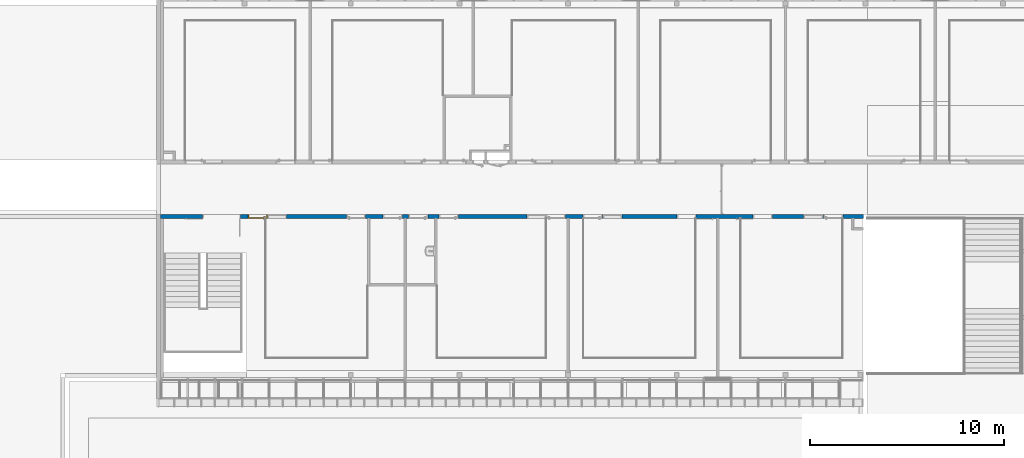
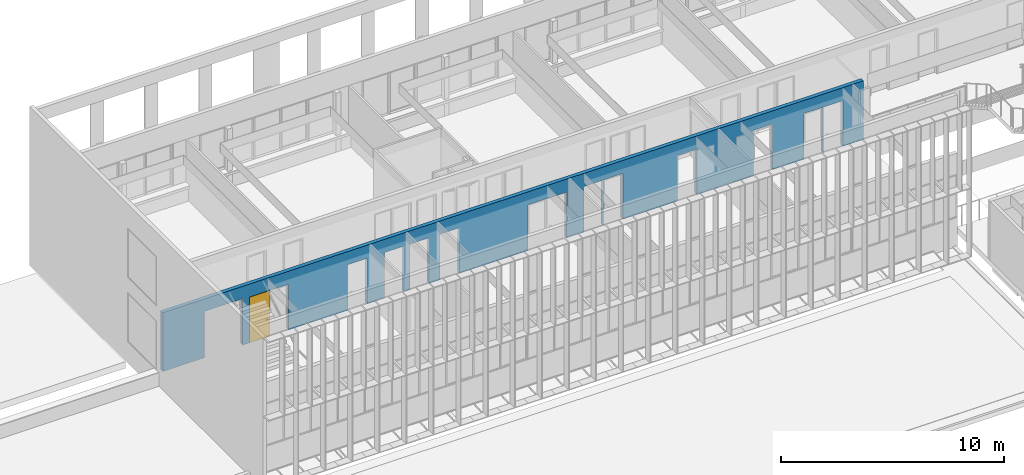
# One storey, part 39 of 106: 1 door, 1 wall, 15 openings.
"""IFC2X3 building model written with IfcOpenShell, lengths in centimetres."""

from ifc_helpers import new_model, entity, si_unit, converted_unit, derived_unit, direction, frame, frame_2d, origin, place, context, subcontext, project, spatial, polyline, rectangle, extrude, clip, bounded_halfspace, faceted_brep, source, transform, mapped, material, material_list, layer, layer_set, layer_usage, type_object, type_shapes, element, fill, save


model = new_model("IFC2X3")

# Units and contexts
model_context = context("Model", 3, precision=0.001, world=origin(), true_north=direction((6.12303176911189e-17, 1.0)))
body_context = subcontext(model_context, "Body", "Model", "MODEL_VIEW")
ifc_project = project(units=[si_unit("LENGTHUNIT", "METRE", prefix="CENTI"), si_unit("AREAUNIT", "SQUARE_METRE"), si_unit("VOLUMEUNIT", "CUBIC_METRE"), converted_unit("PLANEANGLEUNIT", "DEGREE", entity("IfcRatioMeasure", 0.0174532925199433), si_unit("PLANEANGLEUNIT", "RADIAN"), dimensions=[0, 0, 0, 0, 0, 0, 0]), si_unit("MASSUNIT", "GRAM", prefix="KILO"), derived_unit("MASSDENSITYUNIT", [(si_unit("MASSUNIT", "GRAM", prefix="KILO"), 1), (si_unit("LENGTHUNIT", "METRE"), -3)]), si_unit("TIMEUNIT", "SECOND"), si_unit("FREQUENCYUNIT", "HERTZ"), si_unit("THERMODYNAMICTEMPERATUREUNIT", "DEGREE_CELSIUS"), derived_unit("THERMALTRANSMITTANCEUNIT", [(si_unit("MASSUNIT", "GRAM", prefix="KILO"), 1), (si_unit("THERMODYNAMICTEMPERATUREUNIT", "KELVIN"), -1), (si_unit("TIMEUNIT", "SECOND"), -3)]), derived_unit("VOLUMETRICFLOWRATEUNIT", [(si_unit("LENGTHUNIT", "METRE"), 3), (si_unit("TIMEUNIT", "SECOND"), -1)]), si_unit("ELECTRICCURRENTUNIT", "AMPERE"), si_unit("ELECTRICVOLTAGEUNIT", "VOLT"), si_unit("POWERUNIT", "WATT"), si_unit("FORCEUNIT", "NEWTON", prefix="KILO"), si_unit("ILLUMINANCEUNIT", "LUX"), si_unit("LUMINOUSFLUXUNIT", "LUMEN"), si_unit("LUMINOUSINTENSITYUNIT", "CANDELA"), derived_unit("USERDEFINED", [(si_unit("MASSUNIT", "GRAM", prefix="KILO"), -1), (si_unit("LENGTHUNIT", "METRE"), -2), (si_unit("TIMEUNIT", "SECOND"), 3), (si_unit("LUMINOUSFLUXUNIT", "LUMEN"), 1)]), derived_unit("LINEARVELOCITYUNIT", [(si_unit("LENGTHUNIT", "METRE"), 1), (si_unit("TIMEUNIT", "SECOND"), -1)]), si_unit("PRESSUREUNIT", "PASCAL"), derived_unit("USERDEFINED", [(si_unit("LENGTHUNIT", "METRE"), -2), (si_unit("MASSUNIT", "GRAM", prefix="KILO"), 1), (si_unit("TIMEUNIT", "SECOND"), -2)])], contexts=[model_context])

# Site, building, storey
site_placement = place(None, frame((-2781.94577612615, 7442.24238424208, 0.0)))
site = spatial("IfcSite", under=ifc_project, at=site_placement, Name="Default", CompositionType="ELEMENT")
building_placement = place(site_placement, origin())
building = spatial("IfcBuilding", under=site, at=building_placement, CompositionType="ELEMENT")
storey_placement = place(building_placement, frame((0.0, 0.0, 422.0)))
storey = spatial("IfcBuildingStorey", under=building, at=storey_placement, Name="Toiture - Cuisine", CompositionType="ELEMENT", Elevation=421.999999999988)

# Wall, openings, door
ifc_material_1 = material(Name="01 - Maçonnerie")
ifc_layer = layer(ifc_material_1, 20.0)
ifc_layer_set = layer_set([ifc_layer], Name="Mur de base:04 - Structure - béton - 20cm")
ifc_layer_usage = layer_usage(ifc_layer_set, "AXIS2", "NEGATIVE", 10.0)
wall_type = type_object("IfcWallType", Name="Mur de base:04 - Structure - béton - 20cm", PredefinedType="STANDARD", material=ifc_layer_set)
wall_placement = place(building_placement, frame((-4787.99987760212, -1100.0, 422.0), z_axis=(0.0, 0.0, 1.0), x_axis=(-1.0, 0.0, 0.0)))
wall = element("IfcWallStandardCase", 1, at=wall_placement, inside=storey, type_object=wall_type, material=ifc_layer_usage, Name="Mur de base:04 - Structure - béton - 20cm", ObjectType="Mur de base:04 - Structure - béton - 20cm", context=body_context, shape_type="Clipping", body=[
    clip(extrude(rectangle(XDim=3621.50000006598, YDim=20.0000000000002, at=frame_2d((1810.75000003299, 5.32907051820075e-14), x_axis=(-1.0, 0.0))), origin(), (0.0, 0.0, 1.0), 321.0), bounded_halfspace(frame((4.0, -10.0, 321.0), z_axis=(0.0, 0.0, -1.0), x_axis=(0.0, -1.0, 0.0)), True, frame((4.0, -10.0, 321.0)), polyline([(0.0, 0.0), (720.0, 0.0), (730.0, 0.0), (3617.50000006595, 0.0), (3617.50000006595, 20.0), (3602.20000006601, 20.0), (3077.50016406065, 20.0), (3075.50016406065, 20.0), (2550.5, 20.0), (2540.5, 20.0), (2362.50000003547, 20.0), (2352.50000003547, 20.0), (2203.5, 20.0), (2193.5, 20.0), (1632.5, 20.0), (1630.5, 20.0), (1522.50016406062, 20.0), (1512.50016406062, 20.0), (1440.5, 20.0), (1438.5, 20.0), (862.500000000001, 20.0), (860.5, 20.0), (750.500000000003, 20.0), (740.500000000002, 20.0), (630.500000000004, 20.0), (628.500000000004, 20.0), (104.500000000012, 20.0), (102.500000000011, 20.0), (56.0, 20.0), (46.0, 20.0), (0.0, 20.0), (0.0, 0.0)]))),
])
opening_1_placement = place(wall_placement, frame((3071.50016406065, -10.0, 0.0)))
opening_1 = element("IfcOpeningElement", 2, at=opening_1_placement, cuts=wall, Name="Int. Simple:PV (0.93m x 2.50m):1", ObjectType="Opening", context=body_context, shape_type="SweptSolid", body=[
    extrude(rectangle(XDim=248.500000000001, YDim=99.9999999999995, at=frame_2d((124.250000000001, 49.9999999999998), x_axis=(1.0, 0.0))), frame((0.0, 0.0, 0.0), z_axis=(0.0, 1.0, 0.0), x_axis=(0.0, 0.0, 1.0)), (0.0, 0.0, 1.0), 20.0),
])
opening_2_placement = place(wall_placement, frame((1534.5, -10.0, 0.0)))
element("IfcOpeningElement", 3, at=opening_2_placement, cuts=wall, Name="Int. Simple:PV (0.93m x 2.50m):1", ObjectType="Opening", context=body_context, shape_type="SweptSolid", body=[
    extrude(rectangle(XDim=248.500000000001, YDim=99.9999999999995, at=frame_2d((124.250000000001, 50.0), x_axis=(1.0, 0.0))), frame((0.0, 0.0, 0.0), z_axis=(0.0, 1.0, 0.0), x_axis=(0.0, 0.0, 1.0)), (0.0, 0.0, 1.0), 20.0),
])
opening_3_placement = place(wall_placement, frame((861.500000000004, -10.0, 0.0)))
element("IfcOpeningElement", 4, at=opening_3_placement, cuts=wall, Name="Int. Simple:PV (0.93m x 2.50m):1", ObjectType="Opening", context=body_context, shape_type="SweptSolid", body=[
    extrude(rectangle(XDim=248.500000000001, YDim=99.9999999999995, at=frame_2d((124.250000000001, 50.0), x_axis=(1.0, 0.0))), frame((0.0, 0.0, 0.0), z_axis=(0.0, 1.0, 0.0), x_axis=(0.0, 0.0, 1.0)), (0.0, 0.0, 1.0), 20.0),
])
opening_4_placement = place(wall_placement, frame((469.500000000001, -10.0, 0.0)))
element("IfcOpeningElement", 5, at=opening_4_placement, cuts=wall, Name="Int. Simple:PV (0.93m x 2.50m):1", ObjectType="Opening", context=body_context, shape_type="SweptSolid", body=[
    extrude(rectangle(XDim=248.500000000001, YDim=99.9999999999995, at=frame_2d((124.250000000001, 49.9999999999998), x_axis=(1.0, 0.0))), frame((0.0, 0.0, 0.0), z_axis=(0.0, 1.0, 0.0), x_axis=(0.0, 0.0, 1.0)), (0.0, 0.0, 1.0), 20.0),
])
opening_5_placement = place(wall_placement, frame((2971.50016406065, -10.0, 0.0)))
element("IfcOpeningElement", 6, at=opening_5_placement, cuts=wall, Name="châssis intérieur vitré:châssis intérieur vitré (h=270) R+1:1", ObjectType="Opening", context=body_context, shape_type="SweptSolid", body=[
    extrude(rectangle(XDim=250.0, YDim=99.9999999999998, at=frame_2d((125.0, 49.9999999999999), x_axis=(1.0, 0.0))), frame((0.0, 0.0, 0.0), z_axis=(0.0, 1.0, 0.0), x_axis=(0.0, 0.0, 1.0)), (0.0, 0.0, 1.0), 20.0),
])
opening_6_placement = place(wall_placement, frame((1634.50000000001, -10.0, 0.0)))
element("IfcOpeningElement", 7, at=opening_6_placement, cuts=wall, Name="châssis intérieur vitré:châssis intérieur vitré (h=270) R+1:1", ObjectType="Opening", context=body_context, shape_type="SweptSolid", body=[
    extrude(rectangle(XDim=250.0, YDim=99.9999999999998, at=frame_2d((125.0, 49.9999999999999), x_axis=(1.0, 0.0))), frame((0.0, 0.0, 0.0), z_axis=(0.0, 1.0, 0.0), x_axis=(0.0, 0.0, 1.0)), (0.0, 0.0, 1.0), 20.0),
])
opening_7_placement = place(wall_placement, frame((1243.0, -10.0, 0.0)))
element("IfcOpeningElement", 8, at=opening_7_placement, cuts=wall, Name="châssis intérieur vitré:châssis intérieur vitré (h=270) R+1:1", ObjectType="Opening", context=body_context, shape_type="SweptSolid", body=[
    extrude(rectangle(XDim=250.0, YDim=99.9999999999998, at=frame_2d((125.0, 49.9999999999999), x_axis=(1.0, 0.0))), frame((0.0, 0.0, 0.0), z_axis=(0.0, 1.0, 0.0), x_axis=(0.0, 0.0, 1.0)), (0.0, 0.0, 1.0), 20.0),
])
opening_8_placement = place(wall_placement, frame((208.0, -10.0, 0.0)))
element("IfcOpeningElement", 9, at=opening_8_placement, cuts=wall, Name="châssis intérieur vitré:châssis intérieur vitré (h=270) R+1:1", ObjectType="Opening", context=body_context, shape_type="SweptSolid", body=[
    extrude(rectangle(XDim=250.0, YDim=99.9999999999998, at=frame_2d((125.0, 49.9999999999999), x_axis=(1.0, 0.0))), frame((0.0, 0.0, 0.0), z_axis=(0.0, 1.0, 0.0), x_axis=(0.0, 0.0, 1.0)), (0.0, 0.0, 1.0), 20.0),
])
opening_9_placement = place(wall_placement, frame((2564.5, -10.0, 0.0)))
element("IfcOpeningElement", 10, at=opening_9_placement, cuts=wall, Name="Int. Simple:PV (0.93m x 2.50m):1", ObjectType="Opening", context=body_context, shape_type="SweptSolid", body=[
    extrude(rectangle(XDim=248.500000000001, YDim=99.9999999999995, at=frame_2d((124.250000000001, 50.0), x_axis=(1.0, 0.0))), frame((0.0, 0.0, 0.0), z_axis=(0.0, 1.0, 0.0), x_axis=(0.0, 0.0, 1.0)), (0.0, 0.0, 1.0), 20.0),
])
opening_10_placement = place(wall_placement, frame((2374.5, -10.0, 0.0)))
element("IfcOpeningElement", 11, at=opening_10_placement, cuts=wall, Name="Int. Simple:PP simple (0.93m x 2.50m):1", ObjectType="Opening", context=body_context, shape_type="SweptSolid", body=[
    extrude(rectangle(XDim=248.500000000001, YDim=99.9999999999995, at=frame_2d((124.250000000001, 49.9999999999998), x_axis=(1.0, 0.0))), frame((0.0, 0.0, 0.0), z_axis=(0.0, 1.0, 0.0), x_axis=(0.0, 0.0, 1.0)), (0.0, 0.0, 1.0), 20.0),
])
opening_11_placement = place(wall_placement, frame((2244.5, -10.0, 0.0)))
element("IfcOpeningElement", 12, at=opening_11_placement, cuts=wall, Name="Int. Simple:PP simple (0.93m x 2.50m):1", ObjectType="Opening", context=body_context, shape_type="SweptSolid", body=[
    extrude(rectangle(XDim=248.500000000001, YDim=99.9999999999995, at=frame_2d((124.250000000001, 49.9999999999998), x_axis=(1.0, 0.0))), frame((0.0, 0.0, 0.0), z_axis=(0.0, 1.0, 0.0), x_axis=(0.0, 0.0, 1.0)), (0.0, 0.0, 1.0), 20.0),
])
opening_12_placement = place(wall_placement, frame((2087.5, -10.0, 0.0)))
element("IfcOpeningElement", 13, at=opening_12_placement, cuts=wall, Name="Int. Simple:PV (0.93m x 2.50m):1", ObjectType="Opening", context=body_context, shape_type="SweptSolid", body=[
    extrude(rectangle(XDim=248.500000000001, YDim=99.9999999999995, at=frame_2d((124.250000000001, 49.9999999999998), x_axis=(1.0, 0.0))), frame((0.0, 0.0, 0.0), z_axis=(0.0, 1.0, 0.0), x_axis=(0.0, 0.0, 1.0)), (0.0, 0.0, 1.0), 20.0),
])
opening_13_placement = place(wall_placement, frame((1344.5, -10.0, 0.0)))
element("IfcOpeningElement", 14, at=opening_13_placement, cuts=wall, Name="Int. Simple:PV (0.93m x 2.50m):1", ObjectType="Opening", context=body_context, shape_type="SweptSolid", body=[
    extrude(rectangle(XDim=248.500000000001, YDim=99.9999999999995, at=frame_2d((124.250000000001, 49.9999999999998), x_axis=(1.0, 0.0))), frame((0.0, 0.0, 0.0), z_axis=(0.0, 1.0, 0.0), x_axis=(0.0, 0.0, 1.0)), (0.0, 0.0, 1.0), 20.0),
])
opening_14_placement = place(wall_placement, frame((106.500000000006, -10.0, 0.0)))
element("IfcOpeningElement", 15, at=opening_14_placement, cuts=wall, Name="Int. Simple:PV (0.93m x 2.50m):1", ObjectType="Opening", context=body_context, shape_type="SweptSolid", body=[
    extrude(rectangle(XDim=248.500000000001, YDim=99.9999999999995, at=frame_2d((124.250000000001, 50.0), x_axis=(1.0, 0.0))), frame((0.0, 0.0, 0.0), z_axis=(0.0, 1.0, 0.0), x_axis=(0.0, 0.0, 1.0)), (0.0, 0.0, 1.0), 20.0),
])
opening_15_placement = place(wall_placement, frame((3208.50000000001, -10.0, 0.0)))
element("IfcOpeningElement", 16, at=opening_15_placement, cuts=wall, Name="Int. Double:PP (1.90m x 2.50m):1", ObjectType="Opening", context=body_context, shape_type="SweptSolid", body=[
    extrude(rectangle(XDim=253.500000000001, YDim=197.0, at=frame_2d((126.750000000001, 98.5), x_axis=(1.0, 0.0))), frame((0.0, 0.0, 0.0), z_axis=(0.0, 1.0, 0.0), x_axis=(0.0, 0.0, 1.0)), (0.0, 0.0, 1.0), 20.0),
])
ifc_material_2 = material(Name="Finition Peinture - Blanc satiné")
ifc_material_3 = material(Name="Bois - Panneau de porte")
ifc_material_4 = material(Name="Bois - Cadre de porte")
ifc_material_list_1 = material_list([ifc_material_2, ifc_material_3, ifc_material_4])
ifc_material_list_2 = material_list([ifc_material_2, ifc_material_3, ifc_material_4])
door_style = type_object("IfcDoorStyle", Name="PV (0.93m x 2.50m)", ConstructionType="NOTDEFINED", OperationType="SINGLE_SWING_RIGHT", ParameterTakesPrecedence=False, Sizeable=False, material=ifc_material_list_2)
shared_shape = source(origin(), body_context, "Body", "Brep", [
    faceted_brep([(99.5000000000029, -0.500000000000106, 87.0), (99.5000000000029, -0.500000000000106, 108.0), (98.535276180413, -0.500000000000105, 108.399601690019), (97.5000000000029, -0.500000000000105, 108.535898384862), (96.4647238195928, -0.500000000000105, 108.399601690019), (95.500000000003, -0.500000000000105, 108.0), (95.5000000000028, -0.500000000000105, 87.0), (96.4647238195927, -0.500000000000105, 86.6003983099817), (97.5000000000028, -0.500000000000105, 86.464101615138), (98.5352761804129, -0.500000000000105, 86.6003983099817), (99.5000000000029, 0.0, 108.0), (99.5000000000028, 0.0, 87.0), (98.5352761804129, 0.0, 86.6003983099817), (97.5000000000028, 0.0, 86.464101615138), (96.4647238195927, 0.0, 86.6003983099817), (95.5000000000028, 0.0, 87.0), (95.5000000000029, 0.0, 108.0), (96.4647238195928, 0.0, 108.399601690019), (97.5000000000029, 0.0, 108.535898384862), (98.535276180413, 0.0, 108.399601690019)], [[[0, 1, 2, 3, 4, 5, 6, 7, 8, 9]], [[10, 11, 12, 13, 14, 15, 16, 17, 18, 19]], [[9, 12, 11, 0]], [[8, 13, 12, 9]], [[7, 14, 13, 8]], [[7, 6, 15, 14]], [[15, 6, 5, 16]], [[4, 17, 16, 5]], [[3, 18, 17, 4]], [[2, 19, 18, 3]], [[2, 1, 10, 19]], [[11, 10, 1, 0]]]),
    faceted_brep([(99.5000000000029, 4.0, 87.0), (99.5000000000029, 4.0, 108.0), (98.535276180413, 4.0, 108.399601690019), (97.5000000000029, 4.0, 108.535898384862), (96.4647238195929, 4.0, 108.399601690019), (95.500000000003, 4.0, 108.0), (95.5000000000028, 4.0, 87.0), (96.4647238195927, 4.0, 86.6003983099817), (97.5000000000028, 4.0, 86.464101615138), (98.5352761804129, 4.0, 86.6003983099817), (97.5000000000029, 4.49999999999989, 108.535898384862), (98.535276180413, 4.49999999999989, 108.399601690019), (99.5000000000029, 4.49999999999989, 108.0), (99.5000000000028, 4.49999999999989, 87.0), (98.5352761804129, 4.49999999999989, 86.6003983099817), (97.5000000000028, 4.49999999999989, 86.464101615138), (96.4647238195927, 4.49999999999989, 86.6003983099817), (95.5000000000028, 4.49999999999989, 87.0), (95.500000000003, 4.49999999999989, 108.0), (96.4647238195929, 4.49999999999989, 108.399601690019)], [[[0, 1, 2, 3, 4, 5, 6, 7, 8, 9]], [[10, 11, 12, 13, 14, 15, 16, 17, 18, 19]], [[4, 19, 18, 5]], [[3, 10, 19, 4]], [[2, 11, 10, 3]], [[2, 1, 12, 11]], [[13, 12, 1, 0]], [[9, 14, 13, 0]], [[8, 15, 14, 9]], [[7, 16, 15, 8]], [[7, 6, 17, 16]], [[17, 6, 5, 18]]]),
    faceted_brep([(97.2974701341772, -0.500000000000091, 100.778044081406), (97.7025298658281, -0.500000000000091, 100.778044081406), (98.1000000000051, -0.500000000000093, 100.699999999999), (98.100000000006, -0.500000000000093, 99.2999999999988), (97.7025298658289, -0.500000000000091, 99.221955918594), (97.297470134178, -0.500000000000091, 99.2219559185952), (96.9000000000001, -0.500000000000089, 99.3000000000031), (96.9000000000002, -0.500000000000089, 100.7), (97.7025298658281, -3.10045754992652, 100.778044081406), (98.1000000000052, -3.26509507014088, 100.7), (97.2974701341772, -2.93267631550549, 100.778044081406), (95.9298602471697, -4.30028620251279, 100.778044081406), (96.0976414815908, -4.70534593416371, 100.778044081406), (96.9000000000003, -2.76803879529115, 100.7), (96.9000000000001, -2.76803879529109, 99.3000000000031), (97.297470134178, -2.93267631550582, 99.2219559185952), (97.7025298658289, -3.10045754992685, 99.221955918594), (96.0976414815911, -4.70534593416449, 99.221955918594), (95.9298602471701, -4.30028620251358, 99.2219559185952), (98.100000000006, -3.26509507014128, 99.2999999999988), (96.2622790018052, -5.1028160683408, 100.7), (95.7652227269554, -3.90281606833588, 100.7), (95.7652227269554, -3.90281606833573, 99.3000000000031), (96.2622790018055, -5.10281606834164, 99.2999999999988), (87.4981359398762, -5.10281606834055, 100.7), (87.4981359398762, -4.70534593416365, 100.778044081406), (87.4981359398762, -4.30028620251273, 100.778044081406), (87.4981359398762, -3.90281606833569, 100.699999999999), (87.4981359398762, -3.90281606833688, 99.3000000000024), (87.4981359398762, -4.30028620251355, 99.2219559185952), (87.4981359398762, -4.70534593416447, 99.221955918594), (87.4981359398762, -5.10281606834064, 99.2999999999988), (91.7139980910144, -4.5028160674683, 100.78786867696), (92.2692302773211, -5.1028160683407, 100.7), (91.6316793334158, -3.9028160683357, 100.7), (91.631679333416, -3.90281606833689, 99.3000000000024), (91.7139981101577, -4.50281607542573, 99.2121313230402), (92.2692310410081, -5.10281606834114, 99.2999999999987)], [[[0, 1, 2, 3, 4, 5, 6, 7]], [[2, 1, 8, 9]], [[1, 0, 10, 11, 12, 8]], [[0, 7, 13, 10]], [[14, 13, 7, 6]], [[5, 15, 14, 6]], [[5, 4, 16, 17, 18, 15]], [[3, 19, 16, 4]], [[9, 19, 3, 2]], [[9, 8, 12, 20]], [[10, 13, 21, 11]], [[22, 21, 13, 14]], [[14, 15, 18, 22]], [[16, 19, 23, 17]], [[20, 23, 19, 9]], [[24, 25, 26, 27, 28, 29, 30, 31]], [[32, 25, 33]], [[33, 25, 24]], [[33, 20, 12]], [[11, 34, 32]], [[34, 11, 21]], [[27, 26, 34]], [[32, 26, 25]], [[32, 34, 26]], [[32, 33, 12]], [[11, 32, 12]], [[21, 22, 35, 28, 27, 34]], [[36, 29, 35]], [[30, 36, 37]], [[18, 35, 22]], [[29, 28, 35]], [[30, 37, 31]], [[37, 17, 23]], [[36, 17, 37]], [[36, 18, 17]], [[36, 35, 18]], [[29, 36, 30]], [[23, 20, 33, 24, 31, 37]]]),
    faceted_brep([(97.2974701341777, 4.49999999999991, 99.2219559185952), (97.7025298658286, 4.49999999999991, 99.221955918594), (98.1000000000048, 4.4999999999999, 99.2999999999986), (98.1000000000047, 4.4999999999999, 100.7), (97.7025298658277, 4.49999999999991, 100.778044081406), (97.2974701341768, 4.49999999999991, 100.778044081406), (96.8999999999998, 4.49999999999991, 100.7), (96.900000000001, 4.49999999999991, 99.3000000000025), (96.8999999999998, 6.7485204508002, 100.7), (96.8999999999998, 6.74852045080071, 99.3000000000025), (97.2974701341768, 6.91315797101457, 100.778044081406), (97.7025298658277, 7.0809392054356, 100.778044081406), (96.0838906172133, 8.69957845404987, 100.778044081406), (95.9161093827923, 8.29451872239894, 100.778044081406), (98.1000000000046, 7.24557672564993, 100.7), (98.1000000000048, 7.24557672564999, 99.2999999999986), (97.7025298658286, 7.08093920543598, 99.221955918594), (97.2974701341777, 6.91315797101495, 99.2219559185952), (95.9161093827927, 8.29451872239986, 99.2219559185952), (96.0838906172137, 8.69957845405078, 99.221955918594), (95.751471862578, 7.89704858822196, 100.7), (95.7514718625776, 7.89704858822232, 99.3000000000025), (96.2485281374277, 9.09704858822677, 100.7), (96.2485281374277, 9.09704858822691, 99.2999999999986), (87.4954216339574, 8.29451872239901, 100.778044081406), (87.4954216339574, 8.69957845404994, 100.778044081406), (87.4954216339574, 9.09704858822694, 100.7), (87.4954216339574, 9.09704858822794, 99.2999999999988), (87.4954216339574, 8.6995784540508, 99.221955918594), (87.4954216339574, 8.29451872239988, 99.2219559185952), (87.4954216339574, 7.89704858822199, 99.3000000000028), (87.4954216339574, 7.89704858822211, 100.7), (91.6234467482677, 7.89704858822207, 100.7), (91.6234479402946, 7.89704858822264, 99.3000000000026), (91.7057655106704, 8.49704858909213, 100.78786867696), (92.255479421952, 9.09704858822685, 100.7), (92.2554795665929, 9.09704858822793, 99.2999999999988), (91.7057654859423, 8.49704858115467, 99.2121313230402)], [[[0, 1, 2, 3, 4, 5, 6, 7]], [[8, 9, 7, 6]], [[5, 10, 8, 6]], [[5, 4, 11, 12, 13, 10]], [[3, 14, 11, 4]], [[14, 3, 2, 15]], [[2, 1, 16, 15]], [[1, 0, 17, 18, 19, 16]], [[0, 7, 9, 17]], [[20, 21, 9, 8]], [[8, 10, 13, 20]], [[14, 22, 12, 11]], [[23, 22, 14, 15]], [[15, 16, 19, 23]], [[17, 9, 21, 18]], [[24, 25, 26, 27, 28, 29, 30, 31]], [[21, 20, 32, 31, 30, 33]], [[34, 24, 32]], [[25, 34, 35]], [[13, 32, 20]], [[24, 31, 32]], [[25, 35, 26]], [[35, 12, 22]], [[34, 12, 35]], [[34, 13, 12]], [[34, 32, 13]], [[24, 34, 25]], [[22, 23, 36, 27, 26, 35]], [[37, 28, 36]], [[36, 28, 27]], [[36, 23, 19]], [[18, 33, 37]], [[33, 18, 21]], [[30, 29, 33]], [[37, 29, 28]], [[37, 33, 29]], [[37, 36, 19]], [[18, 37, 19]]]),
    faceted_brep([(103.500000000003, 4.0, 245.0), (103.500000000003, 4.0, 0.0), (10.5000000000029, 4.0, 0.0), (10.5000000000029, 4.0, 245.0), (103.500000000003, 0.0, 245.0), (10.5000000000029, 0.0, 245.0), (10.5000000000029, 0.0, 0.0), (103.500000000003, 0.0, 0.0)], [[[0, 1, 2, 3]], [[4, 5, 6, 7]], [[3, 5, 4, 0]], [[2, 6, 5, 3]], [[1, 7, 6, 2]], [[0, 4, 7, 1]]]),
    faceted_brep([(107.0, 20.0, 0.0), (107.0, 0.0, 0.0), (108.500000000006, 0.0, 0.0), (108.500000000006, -0.500000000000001, 0.0), (103.500000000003, -0.500000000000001, 0.0), (103.500000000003, 4.0, 0.0), (102.0, 4.0, 0.0), (102.0, 20.5000000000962, 0.0), (108.500000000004, 20.5000000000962, 0.0), (108.500000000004, 20.0, 0.0), (108.500000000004, 20.0, 250.0), (5.50000000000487, 20.0, 250.0), (5.50000000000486, 20.0, 0.0), (7.0, 20.0, 0.0), (7.0, 20.0, 248.500000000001), (107.0, 20.0, 248.500000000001), (108.500000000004, 20.5000000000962, 250.0), (102.0, 20.5000000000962, 243.5), (12.0, 20.5000000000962, 243.5), (12.0, 20.5000000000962, 0.0), (5.50000000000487, 20.5000000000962, 0.0), (5.50000000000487, 20.5000000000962, 250.0), (102.0, 4.0, 243.5), (103.500000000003, 4.0, 245.0), (10.5000000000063, 4.0, 245.0), (10.5000000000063, 4.0, 0.0), (12.0, 4.0, 0.0), (12.0, 4.0, 243.5), (103.500000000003, -0.500000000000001, 245.0), (108.500000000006, -0.500000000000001, 250.0), (5.5000000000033, -0.500000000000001, 250.0), (5.50000000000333, -0.500000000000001, 0.0), (10.5000000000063, -0.500000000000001, 0.0), (10.5000000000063, -0.500000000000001, 245.0), (108.500000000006, 0.0, 250.0), (107.0, 0.0, 248.500000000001), (7.0, 0.0, 248.500000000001), (7.0, 0.0, 0.0), (5.5000000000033, 0.0, 0.0), (5.50000000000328, 0.0, 250.0)], [[[0, 1, 2, 3, 4, 5, 6, 7, 8, 9]], [[9, 10, 11, 12, 13, 14, 15, 0]], [[8, 16, 10, 9]], [[7, 17, 18, 19, 20, 21, 16, 8]], [[7, 6, 22, 17]], [[5, 23, 24, 25, 26, 27, 22, 6]], [[5, 4, 28, 23]], [[3, 29, 30, 31, 32, 33, 28, 4]], [[2, 34, 29, 3]], [[1, 35, 36, 37, 38, 39, 34, 2]], [[0, 15, 35, 1]], [[14, 13, 37, 36]], [[13, 12, 20, 19, 26, 25, 32, 31, 38, 37]], [[21, 20, 12, 11]], [[27, 26, 19, 18]], [[33, 32, 25, 24]], [[39, 38, 31, 30]], [[16, 21, 11, 10]], [[22, 27, 18, 17]], [[28, 33, 24, 23]], [[34, 39, 30, 29]], [[15, 14, 36, 35]]]),
])
type_shapes(door_style, [shared_shape])
door_placement = place(opening_1_placement, frame((107.0, 20.0, 0.0), z_axis=(0.0, 0.0, 1.0), x_axis=(-1.0, 0.0, 0.0)))
door = element("IfcDoor", 17, at=door_placement, inside=storey, type_object=door_style, material=ifc_material_list_1, Name="Int. Simple:PV (0.93m x 2.50m)", ObjectType="Int. Simple:PV (0.93m x 2.50m)", OverallHeight=248.500000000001, OverallWidth=99.9999999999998, context=body_context, shape_type="MappedRepresentation", body=[
    mapped(shared_shape, transform((0.0, 0.0, 0.0), scale=1.0)),
])
fill(opening_1, door)

save(model, "model.ifc")
